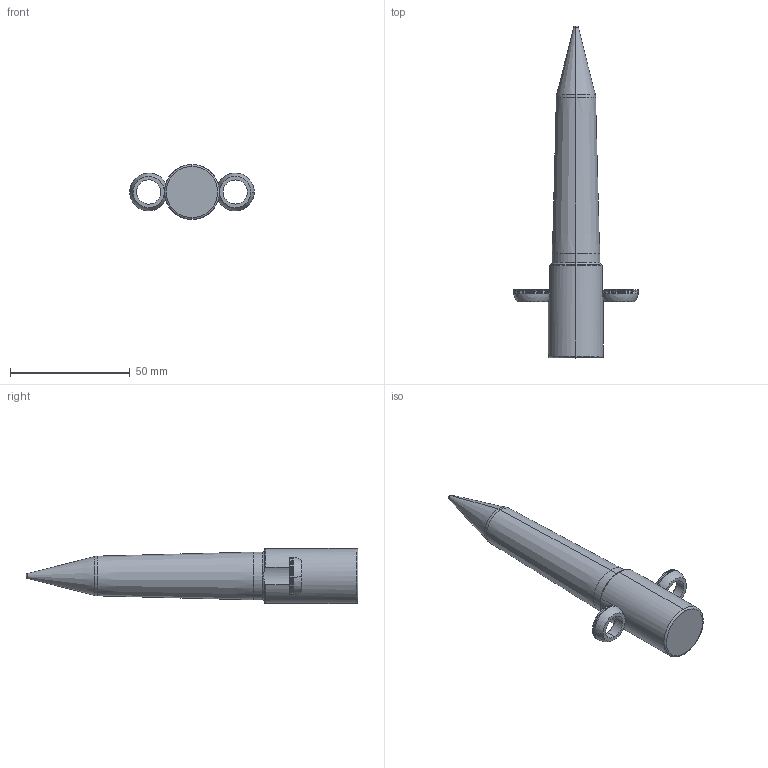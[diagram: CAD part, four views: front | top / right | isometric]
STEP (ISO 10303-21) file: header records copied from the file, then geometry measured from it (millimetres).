
FILE_DESCRIPTION (( 'STEP AP214' ), '1' );
FILE_NAME ('PA-T-20mm-3.8mm-65mm-3-A-F2.STEP', '2019-05-08T18:16:15', ( '' ), ( '' ), 'SwSTEP 2.0', 'SolidWorks 2017', '' );
FILE_SCHEMA (( 'AUTOMOTIVE_DESIGN' ));
Length unit declared in the file: inch
Products named in the file (3): PA-T-20mm-3.8mm-65mm-3-A-F2; SLRadiusWasher_RadiusWasher-M; SLPilot-PA-T-M_PA-T-20-3.8-65-3-A-F2
Assembly tree (3 placements, depth 2):
  PA-T-20mm-3.8mm-65mm-3-A-F2
    SLRadiusWasher_RadiusWasher-M  x2
    SLPilot-PA-T-M_PA-T-20-3.8-65-3-A-F2
Bounding box: 52.08 x 138.81 x 23 mm (x, y, z)
Volume: 38133.2 mm3; surface area: 9355.4 mm2
Topology: 3 solids, 3 shells, 61 faces, 136 edges, 81 vertices
Faces by surface type: torus 19, cylinder 18, cone 8, sphere 8, plane 8
Entity records: 1565 total; most frequent: CARTESIAN_POINT 344, DIRECTION 266, ORIENTED_EDGE 204, AXIS2_PLACEMENT_3D 123, EDGE_CURVE 102, CIRCLE 72, VERTEX_POINT 61, EDGE_LOOP 47
